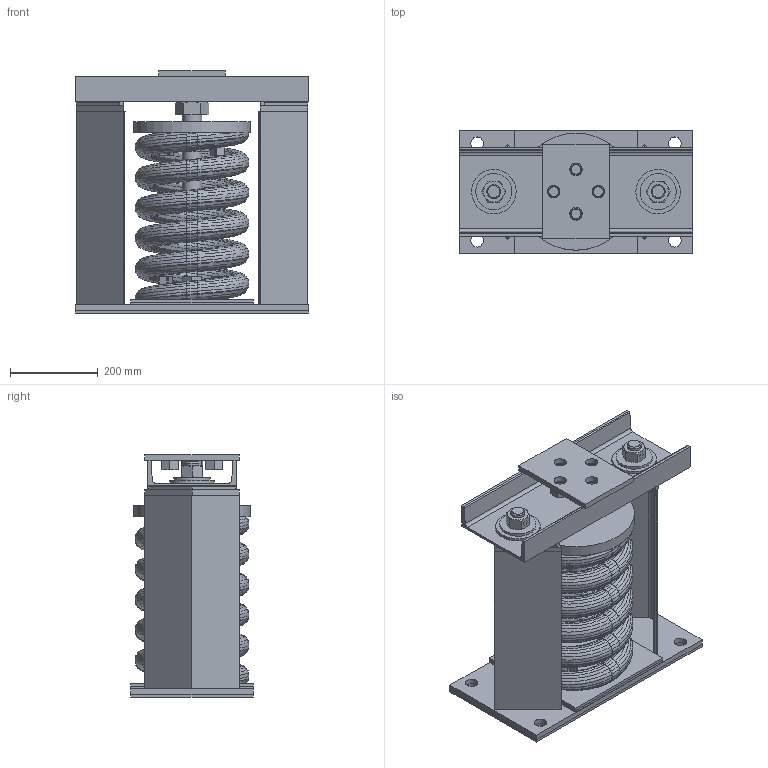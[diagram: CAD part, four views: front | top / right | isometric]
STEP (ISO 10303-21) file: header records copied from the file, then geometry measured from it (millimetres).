
FILE_DESCRIPTION(/* description */ (''),/* implementation_level */ '2;1');
FILE_NAME(/* name */ 'C:\001_Work\Designs\SLR-100 SERIES\SLR 100 SERIES (NON STOCK MOUNTS)\SLR 142\SLR-142.stp',/* time_stamp */ '2016-01-19T14:08:01-05:00',/* author */ ('rramoutar'),/* organization */ ('Mason Industries Inc.'),/* preprocessor_version */ 'ST-DEVELOPER v15.6',/* originating_system */ 'Autodesk Inventor 2015',/* authorisation */ '');
FILE_SCHEMA (('CONFIG_CONTROL_DESIGN'));
Products named in the file (1): SLR-142 PER A-28934-1
Bounding box: 533.4 x 279.4 x 552.45 mm (x, y, z)
Volume: 11290522.8 mm3; surface area: 3454440.9 mm2
Topology: 38 solids, 38 shells, 972 faces, 2086 edges, 1195 vertices
Faces by surface type: bspline 492, plane 279, cone 122, cylinder 77, torus 2
Full cylindrical faces by diameter (mm): 9.525 x2, 12.7 x1, 21.971 x4, 27.813 x2, 28.575 x12, 31.75 x2, 33.337 x4, 38.964 x1, 40.894 x1, 44.45 x3, 47.625 x3, 48.26 x1, 50.8 x2, 57.15 x2, 82.55 x2, 101.6 x2, 266.7 x1
Entity records: 45749 total; most frequent: CARTESIAN_POINT 28203, ORIENTED_EDGE 3978, DIRECTION 2040, EDGE_CURVE 1989, VERTEX_POINT 1165, EDGE_LOOP 1106, STYLED_ITEM 1004, B_SPLINE_CURVE_WITH_KNOTS 996
